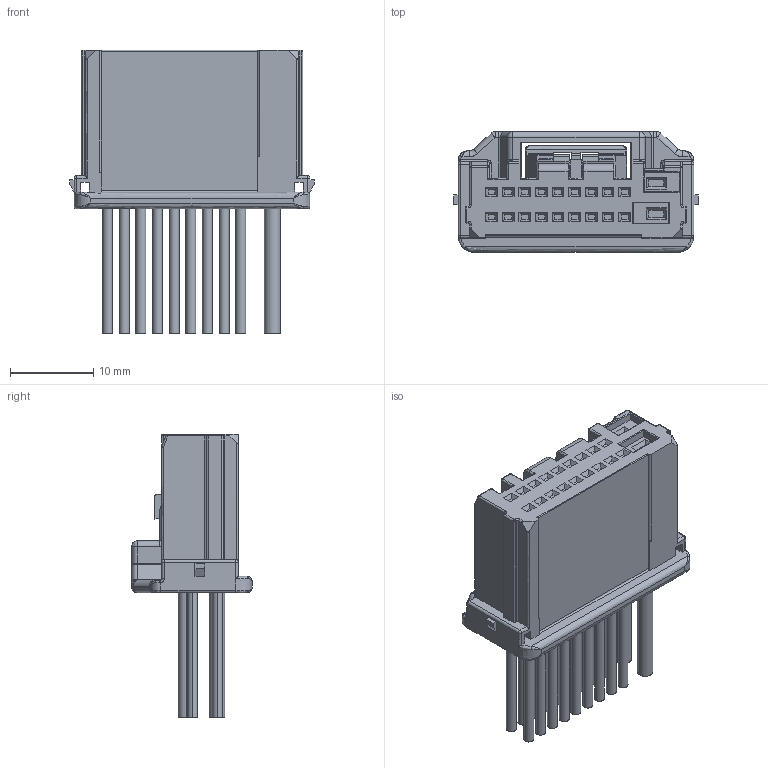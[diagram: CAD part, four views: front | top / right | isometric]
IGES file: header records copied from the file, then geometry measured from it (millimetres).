
Start section: SolidWorks IGES file using analytic representation for surfaces
Bounding box: 29.35 x 14.5 x 34.05 mm (x, y, z)
Surface area: 3946.4 mm2 (no closed solid volume)
Topology: 0 solids, 0 shells, 708 faces, 4691 edges, 4663 vertices
Faces by surface type: bspline 486, revolution 222
